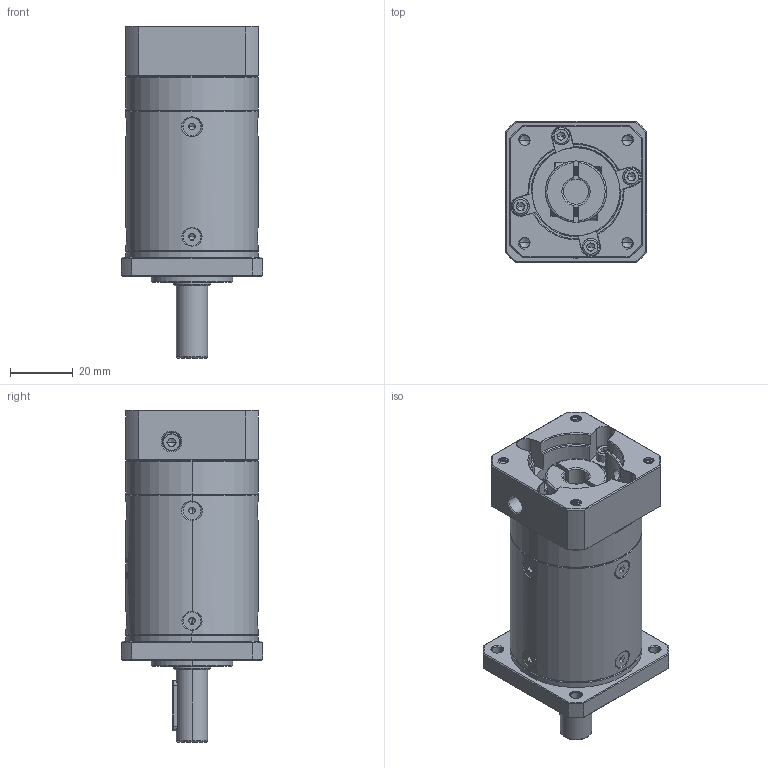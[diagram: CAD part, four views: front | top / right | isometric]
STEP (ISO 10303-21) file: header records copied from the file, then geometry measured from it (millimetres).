
FILE_DESCRIPTION (( 'STEP AP214' ), '1' );
FILE_NAME ('ZF40-L2-8-30-46-M4.step', '2023-03-15T09:46:49', ( '' ), ( '' ), 'SwSTEP 2.0', 'SolidWorks 2016', '' );
FILE_SCHEMA (( 'AUTOMOTIVE_DESIGN' ));
Length unit declared in the file: millimetre
Products named in the file (1): ZF40-L2-8-30-46-M4
Bounding box: 45 x 45 x 105.5 mm (x, y, z)
Volume: 106166.2 mm3; surface area: 28333.3 mm2
Topology: 14 solids, 14 shells, 2077 faces, 5430 edges, 3444 vertices
Faces by surface type: plane 943, cylinder 431, cone 345, bspline 332, torus 26
Entity records: 121631 total; most frequent: CARTESIAN_POINT 51413, ORIENTED_EDGE 10784, DIRECTION 8456, EDGE_CURVE 5392, VERTEX_POINT 3444, AXIS2_PLACEMENT_3D 2831, VECTOR 2794, LINE 2794
